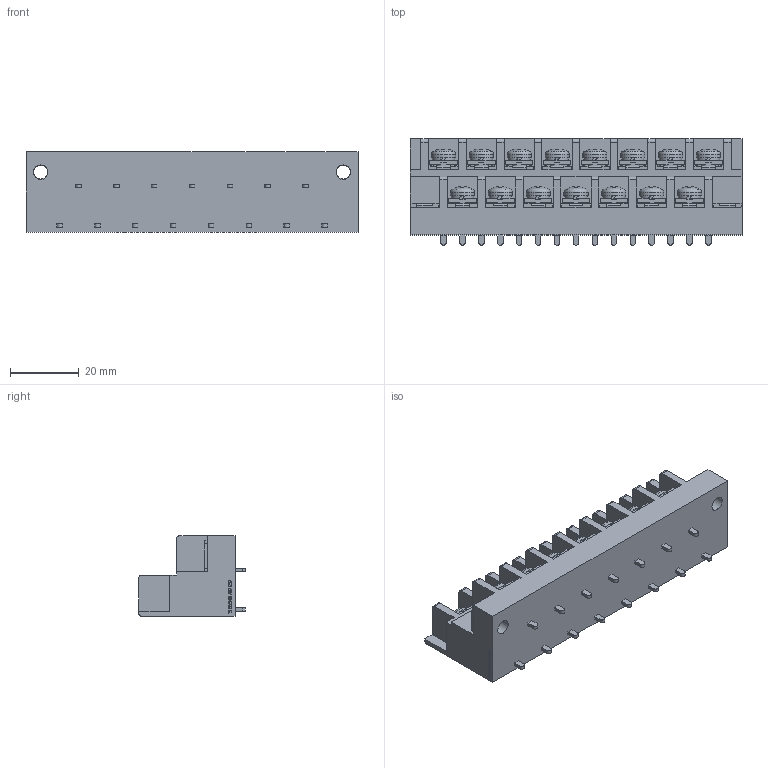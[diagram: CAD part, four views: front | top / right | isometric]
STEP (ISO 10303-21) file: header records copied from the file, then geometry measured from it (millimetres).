
FILE_DESCRIPTION(/* description */ ('Alibre Inc.'),/* implementation_level */ '2;1');
FILE_NAME(/* name */ 'export0',/* time_stamp */ '2016-08-05T14:20:26+09:00',/* author */ (''),/* organization */ (''),/* preprocessor_version */ 'ST-DEVELOPER v14',/* originating_system */ 'Alibre',/* authorisation */ '');
FILE_SCHEMA (('CONFIG_CONTROL_DESIGN'));
Length unit declared in the file: centimetre
Products named in the file (1): ID_1
Bounding box: 96.5 x 31 x 23.5 mm (x, y, z)
Volume: 40138 mm3; surface area: 18721.4 mm2
Topology: 1 solids, 142 shells, 3281 faces, 8585 edges, 5659 vertices
Faces by surface type: plane 2531, bspline 514, cylinder 131, cone 60, torus 30, sphere 15
Full cylindrical faces by diameter (mm): 4 x17, 4.2 x2, 7 x15
Entity records: 95893 total; most frequent: CARTESIAN_POINT 22131, ORIENTED_EDGE 17128, DIRECTION 10685, EDGE_CURVE 8504, VECTOR 6437, LINE 6437, VERTEX_POINT 5642, EDGE_LOOP 3552
